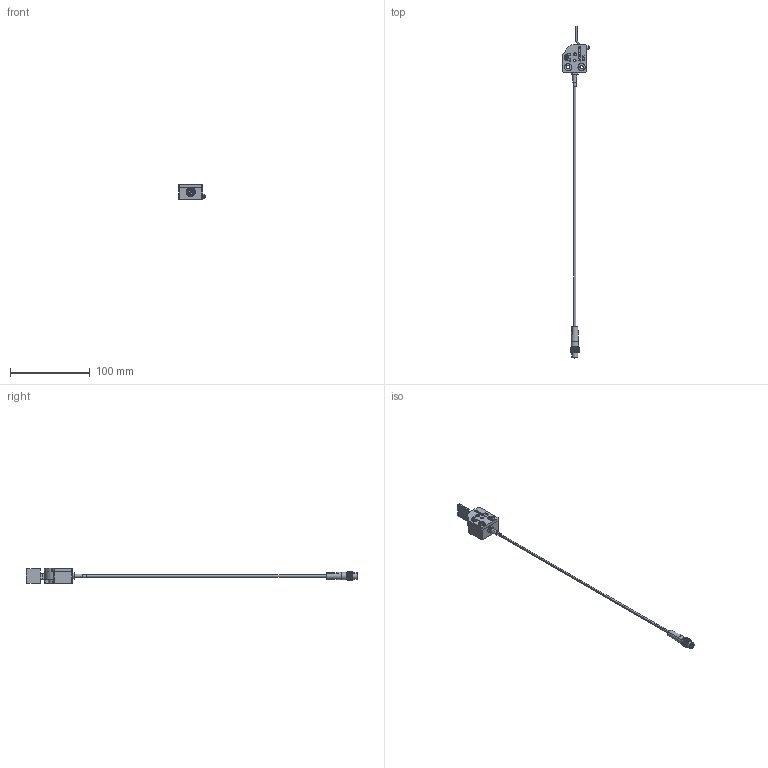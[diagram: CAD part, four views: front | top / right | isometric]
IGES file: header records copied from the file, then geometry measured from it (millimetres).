
Start section: SolidWorks IGES file using analytic representation for surfaces
Global section: file name: V:\webhosting\solidcomponents\www\company\out\15469636\FC-1-A-Tooling\FC-1-A-Tooling.igs; native system: SolidWorks 2010; preprocessor: SolidWorks 2010; author: CShared; date: 220516.084858; units: millimetre
Bounding box: 33 x 416.06 x 19 mm (x, y, z)
Surface area: 16508.5 mm2 (no closed solid volume)
Topology: 0 solids, 0 shells, 1192 faces, 10448 edges, 10433 vertices
Faces by surface type: bspline 638, revolution 554
